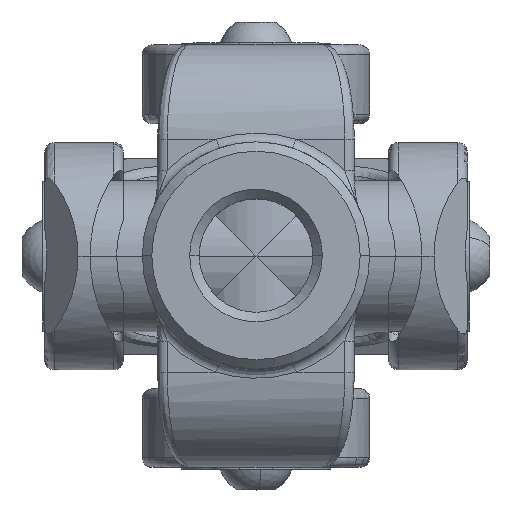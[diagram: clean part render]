
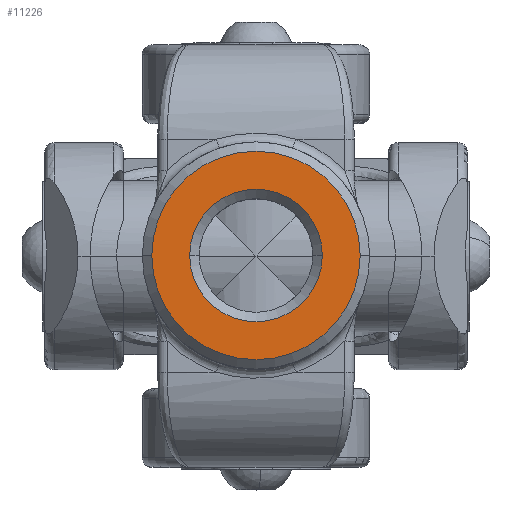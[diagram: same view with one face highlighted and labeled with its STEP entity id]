
A CAD part, top view. The second image highlights one B-rep face of the part: STEP entity #11226.
In plain terms, the highlighted planar face has unit normal (0, 0, 1).
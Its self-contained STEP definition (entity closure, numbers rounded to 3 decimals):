
#88 = CIRCLE ( 'NONE', #11887, 7. ) ;
#147 = VERTEX_POINT ( 'NONE', #8186 ) ;
#461 = EDGE_CURVE ( 'NONE', #8788, #147, #12812, .T. ) ;
#667 = PLANE ( 'NONE',  #6614 ) ;
#982 = VERTEX_POINT ( 'NONE', #4592 ) ;
#1576 = ORIENTED_EDGE ( 'NONE', *, *, #461, .T. ) ;
#1815 = DIRECTION ( 'NONE',  ( 1., 0., 0. ) ) ;
#1863 = VERTEX_POINT ( 'NONE', #9258 ) ;
#2606 = CARTESIAN_POINT ( 'NONE',  ( -22.3, 22.3, 86. ) ) ;
#2792 = EDGE_LOOP ( 'NONE', ( #7391, #7810 ) ) ;
#2912 = ORIENTED_EDGE ( 'NONE', *, *, #5792, .T. ) ;
#3676 = EDGE_CURVE ( 'NONE', #982, #1863, #11028, .T. ) ;
#4158 = DIRECTION ( 'NONE',  ( 0., 0., 1. ) ) ;
#4405 = CARTESIAN_POINT ( 'NONE',  ( -15.3, 22.3, 86. ) ) ;
#4592 = CARTESIAN_POINT ( 'NONE',  ( -33.3, 22.3, 86. ) ) ;
#5293 = CARTESIAN_POINT ( 'NONE',  ( -22.3, 22.3, 86. ) ) ;
#5447 = CARTESIAN_POINT ( 'NONE',  ( -22.3, 22.3, 86. ) ) ;
#5792 = EDGE_CURVE ( 'NONE', #147, #8788, #88, .T. ) ;
#6353 = DIRECTION ( 'NONE',  ( 1., 0., 0. ) ) ;
#6395 = DIRECTION ( 'NONE',  ( 0., 0., -1. ) ) ;
#6614 = AXIS2_PLACEMENT_3D ( 'NONE', #5447, #12733, #13985 ) ;
#6742 = CARTESIAN_POINT ( 'NONE',  ( -22.3, 22.3, 86. ) ) ;
#7136 = EDGE_LOOP ( 'NONE', ( #1576, #2912 ) ) ;
#7391 = ORIENTED_EDGE ( 'NONE', *, *, #3676, .T. ) ;
#7810 = ORIENTED_EDGE ( 'NONE', *, *, #9513, .T. ) ;
#8186 = CARTESIAN_POINT ( 'NONE',  ( -29.3, 22.3, 86. ) ) ;
#8788 = VERTEX_POINT ( 'NONE', #4405 ) ;
#9258 = CARTESIAN_POINT ( 'NONE',  ( -11.3, 22.3, 86. ) ) ;
#9513 = EDGE_CURVE ( 'NONE', #1863, #982, #13838, .T. ) ;
#9543 = AXIS2_PLACEMENT_3D ( 'NONE', #5293, #6395, #10080 ) ;
#9899 = DIRECTION ( 'NONE',  ( 1., 0., 0. ) ) ;
#10080 = DIRECTION ( 'NONE',  ( 1., 0., 0. ) ) ;
#11028 = CIRCLE ( 'NONE', #13278, 11. ) ;
#11226 = ADVANCED_FACE ( 'NONE', ( #15076, #11408 ), #667, .T. ) ;
#11408 = FACE_OUTER_BOUND ( 'NONE', #2792, .T. ) ;
#11887 = AXIS2_PLACEMENT_3D ( 'NONE', #6742, #15052, #1815 ) ;
#12733 = DIRECTION ( 'NONE',  ( 0., 0., 1. ) ) ;
#12812 = CIRCLE ( 'NONE', #9543, 7. ) ;
#13278 = AXIS2_PLACEMENT_3D ( 'NONE', #14899, #4158, #6353 ) ;
#13838 = CIRCLE ( 'NONE', #15316, 11. ) ;
#13985 = DIRECTION ( 'NONE',  ( 1., 0., 0. ) ) ;
#14612 = DIRECTION ( 'NONE',  ( 0., 0., 1. ) ) ;
#14899 = CARTESIAN_POINT ( 'NONE',  ( -22.3, 22.3, 86. ) ) ;
#15052 = DIRECTION ( 'NONE',  ( 0., 0., -1. ) ) ;
#15076 = FACE_BOUND ( 'NONE', #7136, .T. ) ;
#15316 = AXIS2_PLACEMENT_3D ( 'NONE', #2606, #14612, #9899 ) ;
